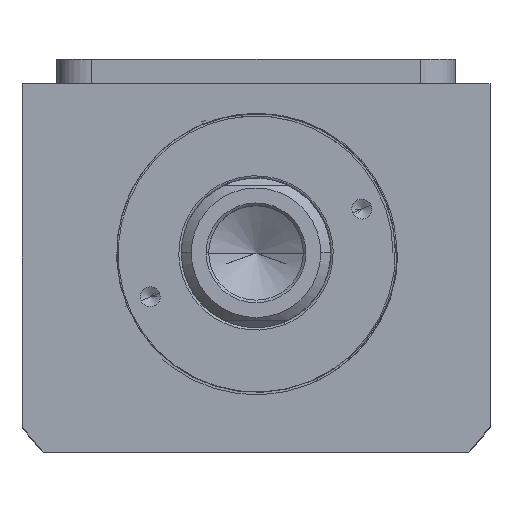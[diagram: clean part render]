
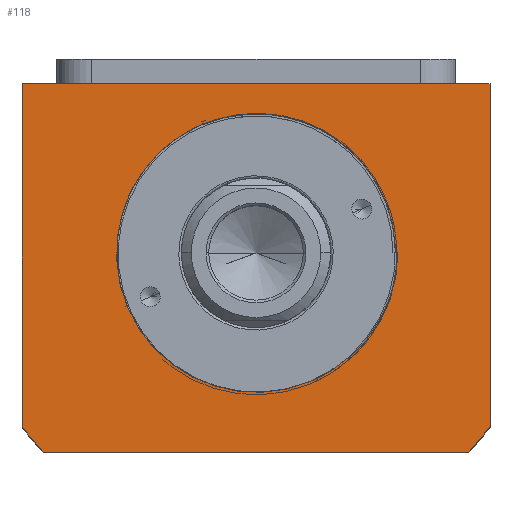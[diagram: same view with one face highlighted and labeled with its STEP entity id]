
A CAD part, top view. The second image highlights one B-rep face of the part: STEP entity #118.
In plain terms, the highlighted planar face has unit normal (0, 0, 1).
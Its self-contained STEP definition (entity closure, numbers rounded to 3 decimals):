
#37 = AXIS2_PLACEMENT_3D ( 'NONE', #3094, #3866, #10144 ) ;
#118 = ADVANCED_FACE ( 'NONE', ( #8005, #3520 ), #7828, .T. ) ;
#371 = CIRCLE ( 'NONE', #37, 58.5 ) ;
#700 = DIRECTION ( 'NONE',  ( 0., 0., 1. ) ) ;
#856 = CARTESIAN_POINT ( 'NONE',  ( 20.224, -19.631, 47.5 ) ) ;
#1028 = EDGE_CURVE ( 'NONE', #7934, #5960, #11533, .T. ) ;
#1253 = VERTEX_POINT ( 'NONE', #9957 ) ;
#1318 = ORIENTED_EDGE ( 'NONE', *, *, #1028, .T. ) ;
#1502 = VECTOR ( 'NONE', #8189, 1000. ) ;
#1690 = CARTESIAN_POINT ( 'NONE',  ( 28.495, 0., 47.5 ) ) ;
#1764 = CARTESIAN_POINT ( 'NONE',  ( 15.3, -23.593, 47.5 ) ) ;
#1811 = ORIENTED_EDGE ( 'NONE', *, *, #5382, .T. ) ;
#1898 = EDGE_CURVE ( 'NONE', #8776, #1253, #4511, .T. ) ;
#1990 = EDGE_CURVE ( 'NONE', #5960, #2284, #3533, .T. ) ;
#2086 = VERTEX_POINT ( 'NONE', #7092 ) ;
#2240 = CIRCLE ( 'NONE', #7106, 58.5 ) ;
#2284 = VERTEX_POINT ( 'NONE', #5657 ) ;
#2285 = CARTESIAN_POINT ( 'NONE',  ( 0., 0., 47.5 ) ) ;
#2471 = CARTESIAN_POINT ( 'NONE',  ( 47., 34., 47.5 ) ) ;
#2588 = CARTESIAN_POINT ( 'NONE',  ( 24.898, -13.504, 47.5 ) ) ;
#2970 = DIRECTION ( 'NONE',  ( 1., 0., 0. ) ) ;
#3053 = VERTEX_POINT ( 'NONE', #7886 ) ;
#3055 = VERTEX_POINT ( 'NONE', #8738 ) ;
#3094 = CARTESIAN_POINT ( 'NONE',  ( 0., 0., 47.5 ) ) ;
#3265 = AXIS2_PLACEMENT_3D ( 'NONE', #9673, #700, #5158 ) ;
#3408 = CARTESIAN_POINT ( 'NONE',  ( 28.485, -0.71, 47.5 ) ) ;
#3442 = CARTESIAN_POINT ( 'NONE',  ( 27.555, -6.99, 47.5 ) ) ;
#3487 = CARTESIAN_POINT ( 'NONE',  ( 19.714, -20.129, 47.5 ) ) ;
#3520 = FACE_OUTER_BOUND ( 'NONE', #6463, .T. ) ;
#3527 = CARTESIAN_POINT ( 'NONE',  ( 26.694, -9.657, 47.5 ) ) ;
#3533 = CIRCLE ( 'NONE', #10258, 28. ) ;
#3866 = DIRECTION ( 'NONE',  ( 0., 0., 1. ) ) ;
#4103 = CARTESIAN_POINT ( 'NONE',  ( 0., 0., 47.5 ) ) ;
#4139 = DIRECTION ( 'NONE',  ( 1., 0., 0. ) ) ;
#4242 = CARTESIAN_POINT ( 'NONE',  ( -47., -34.832, 47.5 ) ) ;
#4342 = CARTESIAN_POINT ( 'NONE',  ( 21.684, -18.094, 47.5 ) ) ;
#4374 = CARTESIAN_POINT ( 'NONE',  ( 12.831, -24.945, 47.5 ) ) ;
#4415 = CARTESIAN_POINT ( 'NONE',  ( 18.667, -21.077, 47.5 ) ) ;
#4450 = ORIENTED_EDGE ( 'NONE', *, *, #10317, .F. ) ;
#4478 = CARTESIAN_POINT ( 'NONE',  ( 10.232, -26.064, 47.5 ) ) ;
#4511 = LINE ( 'NONE', #2471, #9700 ) ;
#4556 = ORIENTED_EDGE ( 'NONE', *, *, #1990, .T. ) ;
#4690 = DIRECTION ( 'NONE',  ( -1., 0., 0. ) ) ;
#4980 = DIRECTION ( 'NONE',  ( -1., 0., 0. ) ) ;
#4986 = EDGE_LOOP ( 'NONE', ( #4450, #1318, #4556 ) ) ;
#5158 = DIRECTION ( 'NONE',  ( 1., 0., 0. ) ) ;
#5290 = VECTOR ( 'NONE', #4980, 1000. ) ;
#5382 = EDGE_CURVE ( 'NONE', #10434, #3053, #8359, .T. ) ;
#5657 = CARTESIAN_POINT ( 'NONE',  ( 28., 0., 47.5 ) ) ;
#5789 = ORIENTED_EDGE ( 'NONE', *, *, #6836, .T. ) ;
#5960 = VERTEX_POINT ( 'NONE', #4478 ) ;
#6051 = CARTESIAN_POINT ( 'NONE',  ( 28.495, 0., 47.5 ) ) ;
#6098 = CARTESIAN_POINT ( 'NONE',  ( 24.178, -14.712, 47.5 ) ) ;
#6184 = CARTESIAN_POINT ( 'NONE',  ( 27.887, -5.628, 47.5 ) ) ;
#6220 = CARTESIAN_POINT ( 'NONE',  ( 22.571, -17.007, 47.5 ) ) ;
#6304 = EDGE_CURVE ( 'NONE', #1253, #2086, #8673, .T. ) ;
#6306 = CARTESIAN_POINT ( 'NONE',  ( 47., -34.832, 47.5 ) ) ;
#6460 = DIRECTION ( 'NONE',  ( 0., 0., 1. ) ) ;
#6463 = EDGE_LOOP ( 'NONE', ( #8791, #5789, #11362, #1811, #9782, #10244 ) ) ;
#6836 = EDGE_CURVE ( 'NONE', #2086, #3055, #9366, .T. ) ;
#7092 = CARTESIAN_POINT ( 'NONE',  ( -47., 34., 47.5 ) ) ;
#7106 = AXIS2_PLACEMENT_3D ( 'NONE', #10957, #6460, #2970 ) ;
#7733 = EDGE_CURVE ( 'NONE', #3055, #10434, #2240, .T. ) ;
#7828 = PLANE ( 'NONE',  #3265 ) ;
#7886 = CARTESIAN_POINT ( 'NONE',  ( 42.688, -40., 47.5 ) ) ;
#7908 = CARTESIAN_POINT ( 'NONE',  ( 28.323, -2.832, 47.5 ) ) ;
#7934 = VERTEX_POINT ( 'NONE', #6051 ) ;
#8005 = FACE_BOUND ( 'NONE', #4986, .T. ) ;
#8189 = DIRECTION ( 'NONE',  ( 1., 0., 0. ) ) ;
#8359 = LINE ( 'NONE', #10894, #1502 ) ;
#8673 = LINE ( 'NONE', #10070, #9380 ) ;
#8738 = CARTESIAN_POINT ( 'NONE',  ( -47., -34.832, 47.5 ) ) ;
#8776 = VERTEX_POINT ( 'NONE', #6306 ) ;
#8791 = ORIENTED_EDGE ( 'NONE', *, *, #6304, .T. ) ;
#8885 = CARTESIAN_POINT ( 'NONE',  ( 28.233, -3.538, 47.5 ) ) ;
#9221 = LINE ( 'NONE', #2285, #5290 ) ;
#9366 = LINE ( 'NONE', #4242, #10618 ) ;
#9380 = VECTOR ( 'NONE', #4690, 1000. ) ;
#9575 = DIRECTION ( 'NONE',  ( 0., -1., 0. ) ) ;
#9627 = CARTESIAN_POINT ( 'NONE',  ( 18.129, -21.529, 47.5 ) ) ;
#9673 = CARTESIAN_POINT ( 'NONE',  ( 0., 0., 47.5 ) ) ;
#9700 = VECTOR ( 'NONE', #11355, 1000. ) ;
#9747 = CARTESIAN_POINT ( 'NONE',  ( 13.459, -24.624, 47.5 ) ) ;
#9782 = ORIENTED_EDGE ( 'NONE', *, *, #10805, .T. ) ;
#9795 = CARTESIAN_POINT ( 'NONE',  ( 26.163, -10.961, 47.5 ) ) ;
#9957 = CARTESIAN_POINT ( 'NONE',  ( 47., 34., 47.5 ) ) ;
#10070 = CARTESIAN_POINT ( 'NONE',  ( -47., 34., 47.5 ) ) ;
#10144 = DIRECTION ( 'NONE',  ( 1., 0., 0. ) ) ;
#10244 = ORIENTED_EDGE ( 'NONE', *, *, #1898, .T. ) ;
#10258 = AXIS2_PLACEMENT_3D ( 'NONE', #4103, #11313, #4139 ) ;
#10271 = CARTESIAN_POINT ( 'NONE',  ( -42.688, -40., 47.5 ) ) ;
#10317 = EDGE_CURVE ( 'NONE', #7934, #2284, #9221, .T. ) ;
#10434 = VERTEX_POINT ( 'NONE', #10271 ) ;
#10567 = CARTESIAN_POINT ( 'NONE',  ( 10.89, -25.816, 47.5 ) ) ;
#10618 = VECTOR ( 'NONE', #9575, 1000. ) ;
#10648 = CARTESIAN_POINT ( 'NONE',  ( 28.449, -1.419, 47.5 ) ) ;
#10689 = CARTESIAN_POINT ( 'NONE',  ( 10.232, -26.064, 47.5 ) ) ;
#10805 = EDGE_CURVE ( 'NONE', #3053, #8776, #371, .T. ) ;
#10894 = CARTESIAN_POINT ( 'NONE',  ( 42.688, -40., 47.5 ) ) ;
#10957 = CARTESIAN_POINT ( 'NONE',  ( 0., 0., 47.5 ) ) ;
#11313 = DIRECTION ( 'NONE',  ( 0., 0., -1. ) ) ;
#11355 = DIRECTION ( 'NONE',  ( 0., 1., 0. ) ) ;
#11362 = ORIENTED_EDGE ( 'NONE', *, *, #7733, .T. ) ;
#11430 = CARTESIAN_POINT ( 'NONE',  ( 16.467, -22.819, 47.5 ) ) ;
#11533 = B_SPLINE_CURVE_WITH_KNOTS ( 'NONE', 3,
 ( #1690, #3408, #10648, #7908, #8885, #6184, #3442, #3527, #9795, #2588, #6098, #6220, #4342, #856, #3487, #4415, #9627, #11430, #1764, #9747, #4374, #11563, #10567, #10689 ),
 .UNSPECIFIED., .F., .F.,
 ( 4, 2, 2, 2, 2, 2, 2, 2, 2, 2, 2, 4 ),
 ( 0., 0.002, 0.004, 0.009, 0.013, 0.017, 0.021, 0.023, 0.026, 0.03, 0.032, 0.034 ),
 .UNSPECIFIED. ) ;
#11563 = CARTESIAN_POINT ( 'NONE',  ( 11.542, -25.544, 47.5 ) ) ;
